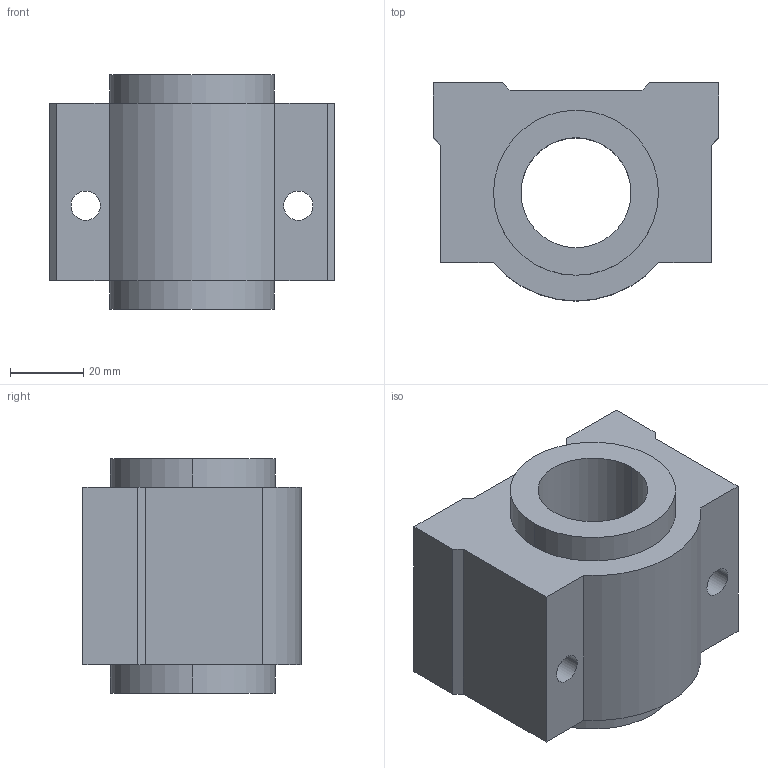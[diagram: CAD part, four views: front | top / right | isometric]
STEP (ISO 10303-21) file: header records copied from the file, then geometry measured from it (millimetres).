
FILE_DESCRIPTION((''),'2;1');
FILE_NAME('C:\Documents and Settings\ｿﾀﾀ蠑ｷ1\ｹﾙﾅﾁ ﾈｭｸ饅\ｺﾎﾇｰﾆﾄﾀﾏ\ﾁｦﾇｰ\SCE__VUU\SCE30VUU.stp','2005-06-22T15:11:09',('ｿﾀﾀ蠑ｷ1'),(''),'Autodesk Inventor 9','Autodesk Inventor 9','');
FILE_SCHEMA(('AUTOMOTIVE_DESIGN { 1 0 10303 214 1 1 1 1 }'));
Length unit declared in the file: millimetre
Products named in the file (1): SCE__VUU
Bounding box: 78 x 59.5 x 64 mm (x, y, z)
Volume: 165497.9 mm3; surface area: 29534.7 mm2
Topology: 1 solids, 1 shells, 28 faces, 72 edges, 48 vertices
Faces by surface type: plane 17, cylinder 7, bspline 4
Entity records: 945 total; most frequent: CARTESIAN_POINT 217, DIRECTION 144, ORIENTED_EDGE 144, EDGE_CURVE 72, VECTOR 50, LINE 50, VERTEX_POINT 48, AXIS2_PLACEMENT_3D 47
